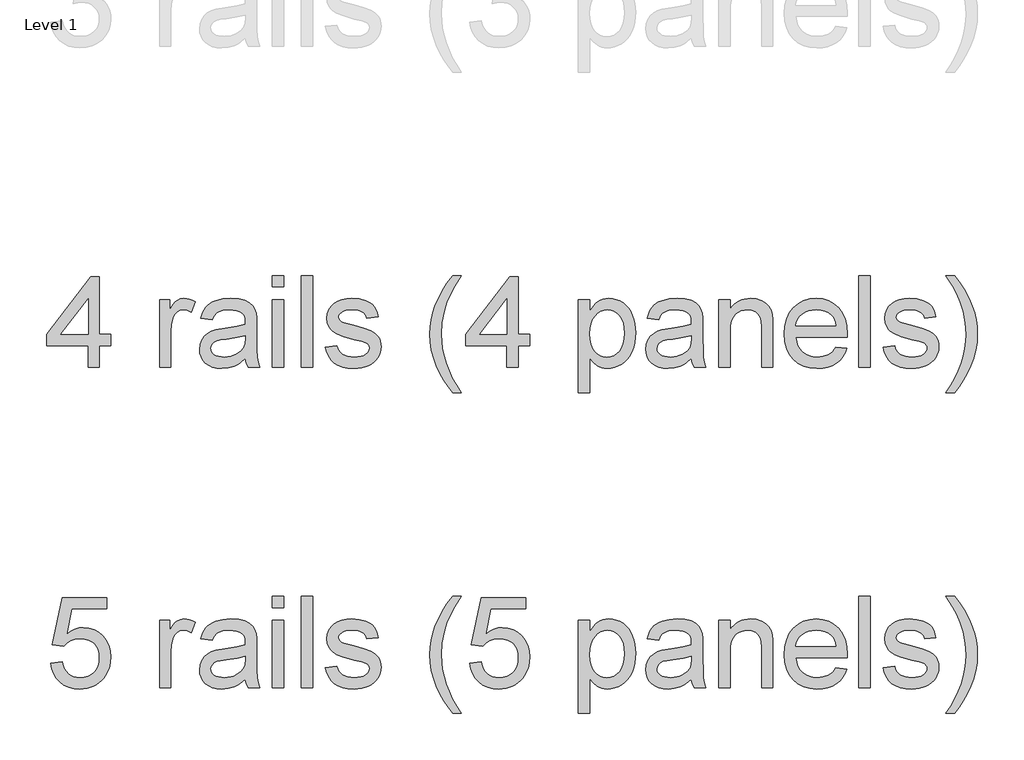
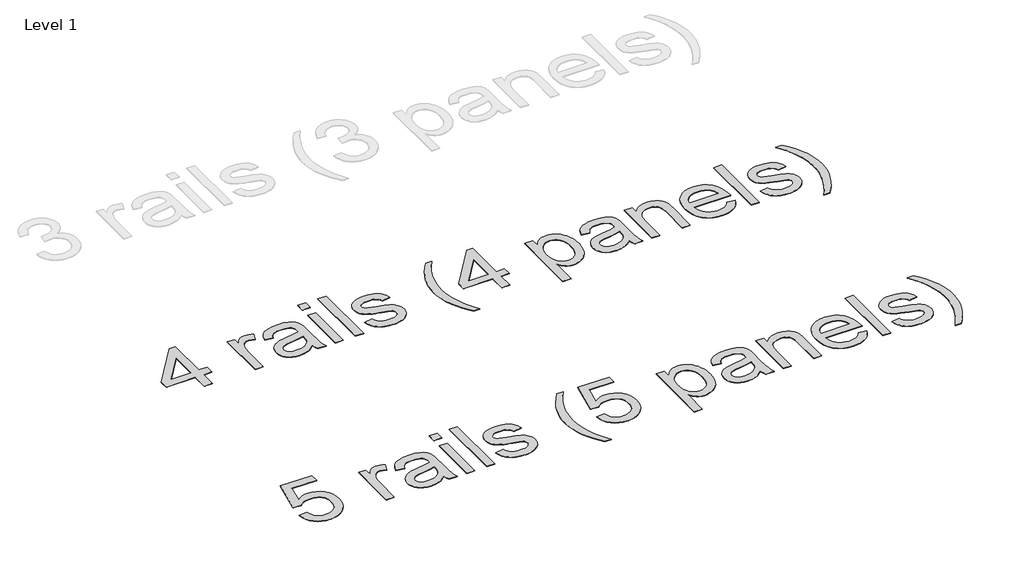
# One storey, part 4 of 47: 2 proxies.
"""IFC4 building model written with IfcOpenShell, lengths in millimetres."""

from ifc_helpers import new_model, si_unit, origin, origin_with_axes, place, context, project, spatial, polyline, outline, extrude, element, save

model = new_model("IFC4")

# Units and contexts
model_context = context("Model", 3, world=origin())
ifc_project = project(units=[si_unit("LENGTHUNIT", "METRE", prefix="MILLI")], contexts=[model_context])

# Site, building, storey
site = spatial("IfcSite", under=ifc_project)
building = spatial("IfcBuilding", under=site)
storey = spatial("IfcBuildingStorey", under=building, Name="Level 1", Elevation=0.0)

# Proxies
placement = place(None, origin())
element("IfcBuildingElementProxy", 1, Name="800mm Arial", ObjectType="800mm Arial", at=placement, inside=storey, context=model_context, shape_type="SweptSolid", body=[
    extrude(outline(polyline([(176718.9023071, -52408.4800005), (176718.9023071, -52221.1232743), (176356.6793032, -52221.1232743), (176356.6793032, -52121.199687), (176743.8832039, -51621.5817506), (176818.8258944, -51621.5817506), (176818.8258944, -52121.199687), (176918.7494817, -52121.199687), (176918.7494817, -52221.1232743), (176818.8258944, -52221.1232743), (176818.8258944, -52408.4800005), (176718.9023071, -52408.4800005)]), holes=[polyline([(176718.9023071, -52121.199687), (176718.9023071, -51812.4514154), (176479.6321547, -52121.199687), (176718.9023071, -52121.199687)])]), origin_with_axes(), (0.0, 0.0, 1.0), 5.0),
    extrude(outline(polyline([(177343.4247277, -52408.4800005), (177343.4247277, -51821.4289252), (177430.8578666, -51821.4289252), (177430.8578666, -51908.2765743), (177463.1573855, -51857.9244541), (177478.3557241, -51840.5061335), (177492.9197821, -51828.2596391), (177522.7797603, -51813.7687673), (177555.3720242, -51808.9384767), (177580.1577577, -51810.8657139), (177605.1386546, -51816.6474254), (177630.3147146, -51826.2836112), (177655.685938, -51839.7742713), (177622.3130211, -51929.354206), (177587.183635, -51913.9850995), (177552.0542488, -51908.862064), (177522.218666, -51913.7899363), (177495.5544861, -51928.5735529), (177474.0133416, -51952.0907253), (177459.5468653, -51983.2192647), (177447.3979525, -52039.0359561), (177443.348315, -52099.9268921), (177443.348315, -52408.4800005), (177343.4247277, -52408.4800005)])), origin_with_axes(), (0.0, 0.0, 1.0), 5.0),
    extrude(outline(polyline([(178092.8516324, -52333.53731), (178045.1098208, -52374.4728031), (178020.7083149, -52389.6345486), (177995.9530756, -52401.25896), (177944.259208, -52416.0425767), (177888.9060294, -52420.9704489), (177844.4149058, -52418.006407), (177805.4005511, -52409.1142811), (177771.8629652, -52394.2940713), (177743.8021483, -52373.5457776), (177721.6450198, -52348.186752), (177705.8184995, -52319.5343464), (177696.3225873, -52287.5885608), (177693.1572832, -52252.3493954), (177697.938783, -52210.9259942), (177712.2832823, -52173.3082765), (177734.4099165, -52141.1063392), (177762.5378209, -52115.9302791), (177795.5935974, -52096.9018616), (177832.5038483, -52083.142852), (177918.9611709, -52068.1152813), (178021.1291356, -52052.3070575), (178092.2661426, -52033.7665482), (178092.8516324, -52011.5179369), (178091.1317562, -51987.2932977), (178085.9721276, -51966.9231328), (178077.3727466, -51950.4074423), (178065.3336132, -51937.746226), (178044.524331, -51925.1094051), (178019.1775031, -51916.0831045), (177989.2931294, -51910.6673242), (177954.8712101, -51908.862064), (177895.3464169, -51913.6679592), (177872.3171526, -51919.6753282), (177853.7766433, -51928.0856448), (177838.5417115, -51939.557585), (177825.4291803, -51954.7498247), (177814.4390494, -51973.662364), (177805.5713189, -51996.2952029), (177705.6477316, -51983.8047545), (177722.992866, -51929.1590427), (177734.8673304, -51906.2273601), (177748.8763929, -51886.2231263), (177765.6238399, -51868.7438171), (177785.7134576, -51853.3869084), (177809.145246, -51840.1524001), (177835.9192053, -51829.0402922), (177897.3224448, -51813.9639306), (177967.751985, -51808.9384767), (178035.3028671, -51813.3784408), (178088.8507856, -51826.6983331), (178129.2251843, -51846.7269623), (178157.255507, -51871.2931372), (178175.8448072, -51901.665419), (178187.8961383, -51939.1123688), (178191.5554493, -51973.6562652), (178192.7752197, -52026.5455077), (178192.7752197, -52150.864502), (178194.0437808, -52259.1557139), (178197.8494643, -52324.4622186), (178205.3632497, -52367.3737396), (178217.7561165, -52408.4800005), (178117.8325292, -52408.4800005), (178101.8291422, -52373.7409409), (178092.8516324, -52333.53731)]), holes=[polyline([(178092.8516324, -52133.6901355), (178025.7154722, -52150.3278031), (177931.6467826, -52164.3307667), (177879.8065426, -52171.9909245), (177845.6773681, -52180.529317), (177823.3067798, -52191.6048318), (177806.7422985, -52206.8763566), (177796.4962275, -52225.1729119), (177793.0808705, -52245.3235181), (177794.9410203, -52260.8511947), (177800.5214697, -52275.0371239), (177809.8222186, -52287.8813057), (177822.8432671, -52299.3837402), (177839.4626382, -52308.8613558), (177859.5583547, -52315.6310813), (177910.1788244, -52321.0468616), (177963.8487199, -52315.0699869), (177988.3417086, -52307.5988935), (178011.2733912, -52297.1393627), (178049.7205527, -52270.7191369), (178076.4579188, -52239.2734572), (178088.3140867, -52206.8763566), (178092.2661426, -52161.9888076), (178092.8516324, -52133.6901355)])]), origin_with_axes(), (0.0, 0.0, 1.0), 5.0),
    extrude(outline(polyline([(178330.1701522, -52408.4800005), (178330.1701522, -51821.4289252), (178430.0937395, -51821.4289252), (178430.0937395, -52408.4800005), (178330.1701522, -52408.4800005)])), origin_with_axes(), (0.0, 0.0, 1.0), 5.0),
    extrude(outline(polyline([(178330.1701522, -51709.0148895), (178330.1701522, -51609.0913022), (178430.0937395, -51609.0913022), (178430.0937395, -51709.0148895), (178330.1701522, -51709.0148895)])), origin_with_axes(), (0.0, 0.0, 1.0), 5.0),
    extrude(outline(polyline([(178579.9791204, -52408.4800005), (178579.9791204, -51609.0913022), (178679.9027077, -51609.0913022), (178679.9027077, -52408.4800005), (178579.9791204, -52408.4800005)])), origin_with_axes(), (0.0, 0.0, 1.0), 5.0),
    extrude(outline(polyline([(178792.3167434, -52233.6137227), (178892.2403307, -52221.1232743), (178898.278194, -52243.9085845), (178907.9997637, -52263.8640275), (178921.4050399, -52280.9896032), (178938.4940225, -52295.2853118), (178959.3155024, -52306.5559898), (178983.9182704, -52314.6064742), (179012.3023265, -52319.4367648), (179044.4676707, -52321.0468616), (179076.5964218, -52319.5709395), (179104.2852088, -52315.1431731), (179127.5340318, -52307.7635625), (179146.3428906, -52297.4321076), (179160.8581578, -52285.112427), (179171.2262058, -52271.7681394), (179177.4470346, -52257.3992446), (179179.5206442, -52242.0057428), (179177.4348369, -52228.5150827), (179171.177415, -52216.5369378), (179160.7483785, -52206.0713082), (179146.1477273, -52197.1181938), (179108.7251729, -52184.4325821), (179043.2966912, -52168.6243584), (178952.1066596, -52142.2529233), (178892.8258205, -52119.7359626), (178854.7445901, -52095.1697877), (178839.6377343, -52079.9043617), (178827.1533847, -52062.6507101), (178810.3937401, -52024.2523394), (178804.8071918, -51982.0482852), (178809.2959467, -51943.3327742), (178822.7622114, -51907.5935029), (178843.9862156, -51876.2454048), (178871.7481888, -51850.7034136), (178899.3393942, -51834.6268404), (178935.2738288, -51821.1361803), (178976.819207, -51811.9879026), (179021.2432432, -51808.9384767), (179086.2813984, -51813.8419536), (179142.829952, -51828.552384), (179188.3029907, -51851.6304391), (179205.9164746, -51865.7675775), (179220.1146015, -51881.6367898), (179241.1922332, -51920.7914181), (179254.4633347, -51971.3143061), (179154.5397474, -51983.8047545), (179149.7765441, -51967.1121972), (179141.9273219, -51952.3590748), (179130.9920807, -51939.5453873), (179116.9708205, -51928.6711346), (179099.8025528, -51920.0046662), (179079.426289, -51913.8143317), (179029.0497735, -51908.862064), (178971.6717761, -51913.594773), (178950.1550271, -51919.5106592), (178933.4197778, -51927.7928999), (178911.9030288, -51948.2850418), (178906.5238416, -51959.7020923), (178904.7307791, -51971.8997959), (178907.7070188, -51987.2689023), (178916.6357378, -52000.9791211), (178931.9072626, -52013.2256154), (178953.9119198, -52023.0325691), (179039.9789158, -52044.305364), (179128.265894, -52070.4084496), (179186.644103, -52091.3397088), (179225.3840094, -52113.8322741), (179254.7560795, -52144.6192778), (179265.557146, -52163.1475895), (179273.2721935, -52183.7983015), (179277.901222, -52206.571414), (179279.4442315, -52231.4669269), (179277.6328725, -52256.4722192), (179272.1987956, -52280.7456492), (179263.1420007, -52304.287217), (179250.4624879, -52327.0969226), (179234.3676181, -52348.266037), (179215.0647523, -52366.8858315), (179192.5538904, -52382.9563059), (179166.8350325, -52396.4774602), (179138.6095466, -52407.1931428), (179108.5788005, -52414.8472017), (179076.7427943, -52419.4396371), (179043.1015279, -52420.9704489), (178989.3218531, -52418.0186047), (178942.3484968, -52409.1630719), (178902.1814591, -52394.4038506), (178868.8207399, -52373.7409409), (178841.5710703, -52347.2719242), (178819.737181, -52315.0943823), (178803.319072, -52277.2083151), (178792.3167434, -52233.6137227)])), origin_with_axes(), (0.0, 0.0, 1.0), 5.0),
    extrude(outline(polyline([(179903.9666521, -52633.3080719), (179863.6288465, -52581.1140985), (179826.5356301, -52524.6509289), (179792.6870028, -52463.918563), (179762.0829646, -52398.9170009), (179736.723939, -52331.1709556), (179718.6103493, -52262.2051398), (179707.7421954, -52192.0195537), (179704.1194775, -52120.6141973), (179706.8273677, -52057.8570126), (179714.9510382, -51996.4415754), (179728.4904891, -51936.3678855), (179747.4457204, -51877.635943), (179776.2566961, -51810.2802241), (179811.9471767, -51743.0708777), (179854.517162, -51676.0079037), (179903.9666521, -51609.0913022), (179978.9093425, -51609.0913022), (179920.1164115, -51704.0870172), (179885.4261427, -51767.3687031), (179853.5169503, -51842.5065569), (179829.2191248, -51920.7670227), (179810.3370798, -52020.7394008), (179804.0430648, -52121.199687), (179806.7753504, -52185.2559271), (179814.9722071, -52249.2999695), (179828.6336351, -52313.3318141), (179847.7596342, -52377.3514611), (179872.3502045, -52441.3589104), (179902.405346, -52505.3541619), (179937.9250587, -52569.3372158), (179978.9093425, -52633.3080719), (179903.9666521, -52633.3080719)])), origin_with_axes(), (0.0, 0.0, 1.0), 5.0),
    extrude(outline(polyline([(180378.6036917, -52408.4800005), (180378.6036917, -52221.1232743), (180016.3806878, -52221.1232743), (180016.3806878, -52121.199687), (180403.5845885, -51621.5817506), (180478.527279, -51621.5817506), (180478.527279, -52121.199687), (180578.4508663, -52121.199687), (180578.4508663, -52221.1232743), (180478.527279, -52221.1232743), (180478.527279, -52408.4800005), (180378.6036917, -52408.4800005)]), holes=[polyline([(180378.6036917, -52121.199687), (180378.6036917, -51812.4514154), (180139.3335393, -52121.199687), (180378.6036917, -52121.199687)])]), origin_with_axes(), (0.0, 0.0, 1.0), 5.0),
    extrude(outline(polyline([(181003.1261123, -52633.3080719), (181003.1261123, -51821.4289252), (181103.0496996, -51821.4289252), (181103.0496996, -51919.4008799), (181135.6419634, -51871.0735785), (181153.4018197, -51852.087853), (181172.1374923, -51836.5540775), (181192.3856802, -51824.4722522), (181214.6830823, -51815.8423769), (181239.0296985, -51810.6644518), (181265.4255289, -51808.9384767), (181300.2743679, -51811.353622), (181333.0008065, -51818.5990579), (181363.6048446, -51830.6747844), (181392.0864823, -51847.5808015), (181417.8236368, -51868.8779919), (181440.1942251, -51894.1272382), (181459.1982472, -51923.3285404), (181474.8357031, -51956.4818986), (181487.0456043, -51992.4529263), (181495.7669623, -52030.1072371), (181500.9997771, -52069.444831), (181502.7440487, -52110.4657079), (181500.7741196, -52154.322551), (181494.8643323, -52195.9228188), (181485.0146867, -52235.2665116), (181471.2251828, -52272.3536291), (181453.6848852, -52306.2144541), (181432.5828581, -52335.8792691), (181407.9191015, -52361.3480741), (181379.6936156, -52382.620869), (181349.2908395, -52399.3988102), (181318.0952128, -52411.3830539), (181286.1067353, -52418.5736002), (181253.325407, -52420.9704489), (181229.7411473, -52419.3664509), (181207.3888555, -52414.5544569), (181186.2685319, -52406.5344668), (181166.3801763, -52395.3064807), (181131.2751855, -52366.2515509), (181103.0496996, -52330.4146979), (181103.0496996, -52633.3080719), (181003.1261123, -52633.3080719)]), holes=[polyline([(181103.0496996, -52119.638381), (181105.7514909, -52167.7949145), (181113.8568649, -52209.2183157), (181127.3658216, -52243.9085845), (181146.2783609, -52271.865721), (181169.0453745, -52293.38247), (181194.1177541, -52308.7515765), (181221.4954997, -52317.9730403), (181251.1786112, -52321.0468616), (181281.2886424, -52317.863261), (181309.1664938, -52308.3124591), (181334.8121654, -52292.394456), (181358.2256574, -52270.1092517), (181377.7358841, -52241.1397058), (181391.6717604, -52205.1686781), (181400.0332862, -52162.1961686), (181402.8204615, -52112.2221772), (181400.1003736, -52064.4803656), (181391.9401099, -52023.1301507), (181378.3396705, -51988.1715324), (181359.2990553, -51959.6045107), (181336.477152, -51937.4046903), (181311.5328483, -51921.5476757), (181284.4661441, -51912.033467), (181255.2770396, -51908.862064), (181226.1794178, -51912.2347291), (181198.8016723, -51922.3527241), (181173.1438029, -51939.2160493), (181149.2058097, -51962.8247044), (181129.0125115, -51992.8615494), (181114.5887271, -52029.0094438), (181105.9344565, -52071.2683877), (181103.0496996, -52119.638381)])]), origin_with_axes(), (0.0, 0.0, 1.0), 5.0),
    extrude(outline(polyline([(181989.8715368, -52333.53731), (181942.1297252, -52374.4728031), (181917.7282193, -52389.6345486), (181892.97298, -52401.25896), (181841.2791124, -52416.0425767), (181785.9259338, -52420.9704489), (181741.4348102, -52418.006407), (181702.4204555, -52409.1142811), (181668.8828696, -52394.2940713), (181640.8220527, -52373.5457776), (181618.6649242, -52348.186752), (181602.8384039, -52319.5343464), (181593.3424917, -52287.5885608), (181590.1771876, -52252.3493954), (181594.9586874, -52210.9259942), (181609.3031868, -52173.3082765), (181631.429821, -52141.1063392), (181659.5577253, -52115.9302791), (181692.6135018, -52096.9018616), (181729.5237527, -52083.142852), (181815.9810753, -52068.1152813), (181918.1490401, -52052.3070575), (181989.286047, -52033.7665482), (181989.8715368, -52011.5179369), (181988.1516606, -51987.2932977), (181982.992032, -51966.9231328), (181974.392651, -51950.4074423), (181962.3535176, -51937.746226), (181941.5442354, -51925.1094051), (181916.1974075, -51916.0831045), (181886.3130339, -51910.6673242), (181851.8911145, -51908.862064), (181792.3663213, -51913.6679592), (181769.337057, -51919.6753282), (181750.7965477, -51928.0856448), (181735.561616, -51939.557585), (181722.4490847, -51954.7498247), (181711.4589538, -51973.662364), (181702.5912233, -51996.2952029), (181602.667636, -51983.8047545), (181620.0127705, -51929.1590427), (181631.8872348, -51906.2273601), (181645.8962973, -51886.2231263), (181662.6437443, -51868.7438171), (181682.733362, -51853.3869084), (181706.1651505, -51840.1524001), (181732.9391097, -51829.0402922), (181794.3423493, -51813.9639306), (181864.7718894, -51808.9384767), (181932.3227716, -51813.3784408), (181985.87069, -51826.6983331), (182026.2450887, -51846.7269623), (182054.2754114, -51871.2931372), (182072.8647116, -51901.665419), (182084.9160427, -51939.1123688), (182088.5753537, -51973.6562652), (182089.7951241, -52026.5455077), (182089.7951241, -52150.864502), (182091.0636853, -52259.1557139), (182094.8693688, -52324.4622186), (182102.3831541, -52367.3737396), (182114.7760209, -52408.4800005), (182014.8524336, -52408.4800005), (181998.8490466, -52373.7409409), (181989.8715368, -52333.53731)]), holes=[polyline([(181989.8715368, -52133.6901355), (181922.7353766, -52150.3278031), (181828.666687, -52164.3307667), (181776.826447, -52171.9909245), (181742.6972725, -52180.529317), (181720.3266843, -52191.6048318), (181703.7622029, -52206.8763566), (181693.5161319, -52225.1729119), (181690.1007749, -52245.3235181), (181691.9609247, -52260.8511947), (181697.5413741, -52275.0371239), (181706.842123, -52287.8813057), (181719.8631715, -52299.3837402), (181736.4825426, -52308.8613558), (181756.5782591, -52315.6310813), (181807.1987288, -52321.0468616), (181860.8686243, -52315.0699869), (181885.361613, -52307.5988935), (181908.2932956, -52297.1393627), (181946.7404571, -52270.7191369), (181973.4778233, -52239.2734572), (181985.3339911, -52206.8763566), (181989.286047, -52161.9888076), (181989.8715368, -52133.6901355)])]), origin_with_axes(), (0.0, 0.0, 1.0), 5.0),
    extrude(outline(polyline([(182227.1900566, -52408.4800005), (182227.1900566, -51821.4289252), (182327.1136439, -51821.4289252), (182327.1136439, -51903.3974929), (182343.5988402, -51881.258661), (182361.8283081, -51862.0716733), (182381.8020477, -51845.8365299), (182403.5200588, -51832.5532308), (182426.9823415, -51822.2217759), (182452.1888959, -51814.8421653), (182507.8348194, -51808.9384767), (182557.0891462, -51813.6955811), (182602.1962538, -51827.9668943), (182639.8139715, -51849.9715514), (182666.6001285, -51877.9286879), (182684.7747067, -51911.7651175), (182696.5576883, -51951.4076539), (182700.5097443, -51989.3181165), (182701.8270963, -52048.0134659), (182701.8270963, -52408.4800005), (182601.903509, -52408.4800005), (182601.903509, -52061.4797306), (182599.0248509, -52009.8102584), (182590.3888768, -51973.0707754), (182574.458676, -51946.7481312), (182549.6973379, -51926.3291755), (182517.9589133, -51913.2288419), (182481.0974532, -51908.862064), (182450.7556657, -51911.3138025), (182422.5728717, -51918.6690177), (182396.5490712, -51930.9277097), (182372.6842643, -51948.0898786), (182352.7471179, -51972.1071568), (182338.506299, -52004.931177), (182329.9618077, -52046.5619392), (182327.1136439, -52096.9994432), (182327.1136439, -52408.4800005), (182227.1900566, -52408.4800005)])), origin_with_axes(), (0.0, 0.0, 1.0), 5.0),
    extrude(outline(polyline([(183250.2358468, -52233.6137227), (183348.2078016, -52246.1041712), (183333.1863297, -52285.3441834), (183312.9076476, -52319.9246729), (183287.3717552, -52349.8456397), (183256.5786527, -52375.1070837), (183220.8454802, -52395.172306), (183180.4893781, -52409.5046076), (183135.5103463, -52418.1039886), (183085.9083849, -52420.9704489), (183023.9074579, -52416.0242801), (182968.6640586, -52401.1857738), (182920.1781871, -52376.4549299), (182878.4498433, -52341.8317484), (182844.8939609, -52298.279848), (182820.9254735, -52246.7628471), (182806.544381, -52187.2807459), (182801.7506835, -52119.8335442), (182806.5931719, -52050.0992732), (182821.1206368, -51988.6350451), (182845.3330783, -51935.44086), (182861.0711652, -51911.9450336), (182879.2304964, -51890.5167179), (182920.8490608, -51854.8262374), (182968.2249413, -51829.333037), (183021.3581378, -51814.0371168), (183080.2486505, -51808.9384767), (183137.2424202, -51814.0249191), (183188.7838165, -51829.2842462), (183234.8728392, -51854.7164581), (183275.5094885, -51890.3215547), (183308.6811433, -51935.1481151), (183332.3751824, -51988.2447186), (183346.5916058, -52049.611365), (183351.3304137, -52119.2480545), (183350.7449239, -52146.1805839), (182901.6742708, -52146.1805839), (182907.4620812, -52186.0548767), (182918.9706144, -52220.9769019), (182936.1998707, -52250.9466595), (182959.1498499, -52275.9641494), (182986.5519908, -52295.687836), (183017.1377324, -52309.7761836), (183050.9070746, -52318.2291921), (183087.8600175, -52321.0468616), (183141.0420049, -52315.8262445), (183185.8319722, -52300.1643932), (183205.0799484, -52288.1740506), (183222.2299195, -52273.0854914), (183237.2818857, -52254.8987154), (183250.2358468, -52233.6137227)]), holes=[polyline([(182901.6742708, -52046.2569966), (183251.4068264, -52046.2569966), (183246.2715932, -52017.9827198), (183237.8917709, -51993.4653357), (183226.2673594, -51972.7048443), (183211.3983588, -51955.7012456), (183184.1486891, -51935.2091037), (183153.1421268, -51920.5718594), (183118.3786717, -51911.7895129), (183079.858324, -51908.862064), (183044.722839, -51911.1979243), (183012.5026051, -51918.2055049), (182983.1976224, -51929.8848061), (182956.8078908, -51946.2358276), (182934.66296, -51966.5023121), (182918.0923798, -51989.9280017), (182907.0961501, -52016.5128965), (182901.6742708, -52046.2569966)])]), origin_with_axes(), (0.0, 0.0, 1.0), 5.0),
    extrude(outline(polyline([(183451.254001, -52408.4800005), (183451.254001, -51609.0913022), (183551.1775882, -51609.0913022), (183551.1775882, -52408.4800005), (183451.254001, -52408.4800005)])), origin_with_axes(), (0.0, 0.0, 1.0), 5.0),
    extrude(outline(polyline([(183663.591624, -52233.6137227), (183763.5152112, -52221.1232743), (183769.5530745, -52243.9085845), (183779.2746442, -52263.8640275), (183792.6799204, -52280.9896032), (183809.768903, -52295.2853118), (183830.5903829, -52306.5559898), (183855.193151, -52314.6064742), (183883.5772071, -52319.4367648), (183915.7425513, -52321.0468616), (183947.8713023, -52319.5709395), (183975.5600894, -52315.1431731), (183998.8089123, -52307.7635625), (184017.6177711, -52297.4321076), (184032.1330383, -52285.112427), (184042.5010863, -52271.7681394), (184048.7219151, -52257.3992446), (184050.7955247, -52242.0057428), (184048.7097174, -52228.5150827), (184042.4522955, -52216.5369378), (184032.023259, -52206.0713082), (184017.4226079, -52197.1181938), (183980.0000534, -52184.4325821), (183914.5715717, -52168.6243584), (183823.3815402, -52142.2529233), (183764.100701, -52119.7359626), (183726.0194706, -52095.1697877), (183710.9126148, -52079.9043617), (183698.4282652, -52062.6507101), (183681.6686206, -52024.2523394), (183676.0820724, -51982.0482852), (183680.5708273, -51943.3327742), (183694.037092, -51907.5935029), (183715.2610961, -51876.2454048), (183743.0230693, -51850.7034136), (183770.6142747, -51834.6268404), (183806.5487093, -51821.1361803), (183848.0940875, -51811.9879026), (183892.5181237, -51808.9384767), (183957.5562789, -51813.8419536), (184014.1048325, -51828.552384), (184059.5778712, -51851.6304391), (184077.1913551, -51865.7675775), (184091.389482, -51881.6367898), (184112.4671137, -51920.7914181), (184125.7382152, -51971.3143061), (184025.8146279, -51983.8047545), (184021.0514247, -51967.1121972), (184013.2022024, -51952.3590748), (184002.2669612, -51939.5453873), (183988.245701, -51928.6711346), (183971.0774333, -51920.0046662), (183950.7011696, -51913.8143317), (183900.324654, -51908.862064), (183842.9466566, -51913.594773), (183821.4299076, -51919.5106592), (183804.6946583, -51927.7928999), (183783.1779093, -51948.2850418), (183777.7987221, -51959.7020923), (183776.0056597, -51971.8997959), (183778.9818993, -51987.2689023), (183787.9106183, -52000.9791211), (183803.1821431, -52013.2256154), (183825.1868003, -52023.0325691), (183911.2537964, -52044.305364), (183999.5407745, -52070.4084496), (184057.9189836, -52091.3397088), (184096.65889, -52113.8322741), (184126.0309601, -52144.6192778), (184136.8320265, -52163.1475895), (184144.547074, -52183.7983015), (184149.1761025, -52206.571414), (184150.719112, -52231.4669269), (184148.907753, -52256.4722192), (184143.4736761, -52280.7456492), (184134.4168812, -52304.287217), (184121.7373684, -52327.0969226), (184105.6424986, -52348.266037), (184086.3396328, -52366.8858315), (184063.8287709, -52382.9563059), (184038.109913, -52396.4774602), (184009.8844271, -52407.1931428), (183979.853681, -52414.8472017), (183948.0176748, -52419.4396371), (183914.3764085, -52420.9704489), (183860.5967336, -52418.0186047), (183813.6233773, -52409.1630719), (183773.4563396, -52394.4038506), (183740.0956205, -52373.7409409), (183712.8459508, -52347.2719242), (183691.0120615, -52315.0943823), (183674.5939525, -52277.2083151), (183663.591624, -52233.6137227)])), origin_with_axes(), (0.0, 0.0, 1.0), 5.0),
    extrude(outline(polyline([(184288.1140445, -52633.3080719), (184213.1713541, -52633.3080719), (184254.1556379, -52569.3372158), (184289.6753506, -52505.3541619), (184319.7304921, -52441.3589104), (184344.3210624, -52377.3514611), (184363.4470615, -52313.3318141), (184377.1084895, -52249.2999695), (184385.3053462, -52185.2559271), (184388.0376318, -52121.199687), (184381.7436168, -52021.471263), (184362.8615717, -51922.523492), (184339.0028636, -51844.1166537), (184307.2400437, -51768.9300092), (184272.4034024, -51704.9652519), (184213.1713541, -51609.0913022), (184288.1140445, -51609.0913022), (184337.5635346, -51676.0079037), (184380.1335199, -51743.0708777), (184415.8240005, -51810.2802241), (184444.6349762, -51877.635943), (184463.5902075, -51936.3678855), (184477.1296584, -51996.4415754), (184485.2533289, -52057.8570126), (184487.9612191, -52120.6141973), (184484.3202046, -52192.0195537), (184473.3971611, -52262.2051398), (184455.1920886, -52331.1709556), (184429.7049871, -52398.9170009), (184399.0094661, -52463.918563), (184365.1791354, -52524.6509289), (184328.2139949, -52581.1140985), (184288.1140445, -52633.3080719)])), origin_with_axes(), (0.0, 0.0, 1.0), 5.0),
])
element("IfcBuildingElementProxy", 2, Name="800mm Arial", ObjectType="800mm Arial", at=placement, inside=storey, context=model_context, shape_type="SweptSolid", body=[
    extrude(outline(polyline([(176394.1506484, -54996.1423775), (176494.0742357, -54983.6519291), (176501.5392303, -55015.7745813), (176512.4195818, -55043.640235), (176526.7152903, -55067.2488902), (176544.4263559, -55086.6005469), (176565.5161853, -55101.6708096), (176589.9481854, -55112.4352829), (176617.7223563, -55118.893967), (176648.838698, -55121.0468616), (176686.895533, -55118.0523254), (176720.4636132, -55109.0687168), (176749.5429384, -55094.0960357), (176774.1335087, -55073.1342822), (176793.6864274, -55047.220261), (176807.652798, -55017.3907771), (176816.0326203, -54983.6458302), (176818.8258944, -54945.9854206), (176816.209487, -54910.3925217), (176808.3602648, -54878.7516788), (176795.2782277, -54851.0628918), (176776.9633759, -54827.3261607), (176753.3547207, -54808.2855455), (176724.3912737, -54794.6851061), (176690.0730348, -54786.5248424), (176650.4000041, -54783.8047545), (176601.9263303, -54788.147137), (176562.6741203, -54801.1742843), (176531.3260223, -54821.1297273), (176506.5646841, -54846.2569966), (176406.6410968, -54833.7665482), (176494.0742357, -54421.5817506), (176881.2781365, -54421.5817506), (176881.2781365, -54521.5053379), (176574.8718239, -54521.5053379), (176532.1310707, -54741.6494911), (176567.3946316, -54716.3758494), (176603.5120317, -54698.3232482), (176640.4832711, -54687.4916875), (176678.3083498, -54683.8811672), (176726.971088, -54688.3577244), (176771.6695726, -54701.787396), (176812.4038035, -54724.170182), (176849.1737808, -54755.5060823), (176879.6131499, -54793.8800576), (176901.3555565, -54837.3770684), (176914.4010004, -54885.9971147), (176918.7494817, -54939.7401964), (176914.8340189, -54991.5072502), (176903.0876304, -55039.6637837), (176883.5103162, -55084.209797), (176856.1020764, -55125.14529), (176836.2076219, -55147.6043116), (176814.5810936, -55167.068797), (176791.2224913, -55183.5387462), (176766.1318152, -55197.0141592), (176739.3090651, -55207.4950359), (176710.7542411, -55214.9813765), (176648.4483715, -55220.9704489), (176596.8825799, -55217.1220735), (176550.305649, -55205.5769471), (176508.7175788, -55186.3350698), (176472.1183693, -55159.3964415), (176441.6668025, -55126.1028097), (176418.52166, -55087.7959218), (176402.682942, -55044.4757777), (176394.1506484, -54996.1423775)])), origin_with_axes(), (0.0, 0.0, 1.0), 5.0),
    extrude(outline(polyline([(177343.4247277, -55208.4800005), (177343.4247277, -54621.4289252), (177430.8578666, -54621.4289252), (177430.8578666, -54708.2765743), (177463.1573855, -54657.9244541), (177478.3557241, -54640.5061335), (177492.9197821, -54628.2596391), (177522.7797603, -54613.7687673), (177555.3720242, -54608.9384767), (177580.1577577, -54610.8657139), (177605.1386546, -54616.6474254), (177630.3147146, -54626.2836112), (177655.685938, -54639.7742713), (177622.3130211, -54729.354206), (177587.183635, -54713.9850995), (177552.0542488, -54708.862064), (177522.218666, -54713.7899363), (177495.5544861, -54728.5735529), (177474.0133416, -54752.0907253), (177459.5468653, -54783.2192647), (177447.3979525, -54839.0359561), (177443.348315, -54899.9268921), (177443.348315, -55208.4800005), (177343.4247277, -55208.4800005)])), origin_with_axes(), (0.0, 0.0, 1.0), 5.0),
    extrude(outline(polyline([(178092.8516324, -55133.53731), (178045.1098208, -55174.4728031), (178020.7083149, -55189.6345486), (177995.9530756, -55201.25896), (177944.259208, -55216.0425767), (177888.9060294, -55220.9704489), (177844.4149058, -55218.006407), (177805.4005511, -55209.1142811), (177771.8629652, -55194.2940713), (177743.8021483, -55173.5457776), (177721.6450198, -55148.186752), (177705.8184995, -55119.5343464), (177696.3225873, -55087.5885608), (177693.1572832, -55052.3493954), (177697.938783, -55010.9259942), (177712.2832823, -54973.3082765), (177734.4099165, -54941.1063392), (177762.5378209, -54915.9302791), (177795.5935974, -54896.9018616), (177832.5038483, -54883.142852), (177918.9611709, -54868.1152813), (178021.1291356, -54852.3070575), (178092.2661426, -54833.7665482), (178092.8516324, -54811.5179369), (178091.1317562, -54787.2932977), (178085.9721276, -54766.9231328), (178077.3727466, -54750.4074423), (178065.3336132, -54737.746226), (178044.524331, -54725.1094051), (178019.1775031, -54716.0831045), (177989.2931294, -54710.6673242), (177954.8712101, -54708.862064), (177895.3464169, -54713.6679592), (177872.3171526, -54719.6753282), (177853.7766433, -54728.0856448), (177838.5417115, -54739.557585), (177825.4291803, -54754.7498247), (177814.4390494, -54773.662364), (177805.5713189, -54796.2952029), (177705.6477316, -54783.8047545), (177722.992866, -54729.1590427), (177734.8673304, -54706.2273601), (177748.8763929, -54686.2231263), (177765.6238399, -54668.7438171), (177785.7134576, -54653.3869084), (177809.145246, -54640.1524001), (177835.9192053, -54629.0402922), (177897.3224448, -54613.9639306), (177967.751985, -54608.9384767), (178035.3028671, -54613.3784408), (178088.8507856, -54626.6983331), (178129.2251843, -54646.7269623), (178157.255507, -54671.2931372), (178175.8448072, -54701.665419), (178187.8961383, -54739.1123688), (178191.5554493, -54773.6562652), (178192.7752197, -54826.5455077), (178192.7752197, -54950.864502), (178194.0437808, -55059.1557139), (178197.8494643, -55124.4622186), (178205.3632497, -55167.3737396), (178217.7561165, -55208.4800005), (178117.8325292, -55208.4800005), (178101.8291422, -55173.7409409), (178092.8516324, -55133.53731)]), holes=[polyline([(178092.8516324, -54933.6901355), (178025.7154722, -54950.3278031), (177931.6467826, -54964.3307667), (177879.8065426, -54971.9909245), (177845.6773681, -54980.529317), (177823.3067798, -54991.6048318), (177806.7422985, -55006.8763566), (177796.4962275, -55025.1729119), (177793.0808705, -55045.3235181), (177794.9410203, -55060.8511947), (177800.5214697, -55075.0371239), (177809.8222186, -55087.8813057), (177822.8432671, -55099.3837402), (177839.4626382, -55108.8613558), (177859.5583547, -55115.6310813), (177910.1788244, -55121.0468616), (177963.8487199, -55115.0699869), (177988.3417086, -55107.5988935), (178011.2733912, -55097.1393627), (178049.7205527, -55070.7191369), (178076.4579188, -55039.2734572), (178088.3140867, -55006.8763566), (178092.2661426, -54961.9888076), (178092.8516324, -54933.6901355)])]), origin_with_axes(), (0.0, 0.0, 1.0), 5.0),
    extrude(outline(polyline([(178330.1701522, -55208.4800005), (178330.1701522, -54621.4289252), (178430.0937395, -54621.4289252), (178430.0937395, -55208.4800005), (178330.1701522, -55208.4800005)])), origin_with_axes(), (0.0, 0.0, 1.0), 5.0),
    extrude(outline(polyline([(178330.1701522, -54509.0148895), (178330.1701522, -54409.0913022), (178430.0937395, -54409.0913022), (178430.0937395, -54509.0148895), (178330.1701522, -54509.0148895)])), origin_with_axes(), (0.0, 0.0, 1.0), 5.0),
    extrude(outline(polyline([(178579.9791204, -55208.4800005), (178579.9791204, -54409.0913022), (178679.9027077, -54409.0913022), (178679.9027077, -55208.4800005), (178579.9791204, -55208.4800005)])), origin_with_axes(), (0.0, 0.0, 1.0), 5.0),
    extrude(outline(polyline([(178792.3167434, -55033.6137227), (178892.2403307, -55021.1232743), (178898.278194, -55043.9085845), (178907.9997637, -55063.8640275), (178921.4050399, -55080.9896032), (178938.4940225, -55095.2853118), (178959.3155024, -55106.5559898), (178983.9182704, -55114.6064742), (179012.3023265, -55119.4367648), (179044.4676707, -55121.0468616), (179076.5964218, -55119.5709395), (179104.2852088, -55115.1431731), (179127.5340318, -55107.7635625), (179146.3428906, -55097.4321076), (179160.8581578, -55085.112427), (179171.2262058, -55071.7681394), (179177.4470346, -55057.3992446), (179179.5206442, -55042.0057428), (179177.4348369, -55028.5150827), (179171.177415, -55016.5369378), (179160.7483785, -55006.0713082), (179146.1477273, -54997.1181938), (179108.7251729, -54984.4325821), (179043.2966912, -54968.6243584), (178952.1066596, -54942.2529233), (178892.8258205, -54919.7359626), (178854.7445901, -54895.1697877), (178839.6377343, -54879.9043617), (178827.1533847, -54862.6507101), (178810.3937401, -54824.2523394), (178804.8071918, -54782.0482852), (178809.2959467, -54743.3327742), (178822.7622114, -54707.5935029), (178843.9862156, -54676.2454048), (178871.7481888, -54650.7034136), (178899.3393942, -54634.6268404), (178935.2738288, -54621.1361803), (178976.819207, -54611.9879026), (179021.2432432, -54608.9384767), (179086.2813984, -54613.8419536), (179142.829952, -54628.552384), (179188.3029907, -54651.6304391), (179205.9164746, -54665.7675775), (179220.1146015, -54681.6367898), (179241.1922332, -54720.7914181), (179254.4633347, -54771.3143061), (179154.5397474, -54783.8047545), (179149.7765441, -54767.1121972), (179141.9273219, -54752.3590748), (179130.9920807, -54739.5453873), (179116.9708205, -54728.6711346), (179099.8025528, -54720.0046662), (179079.426289, -54713.8143317), (179029.0497735, -54708.862064), (178971.6717761, -54713.594773), (178950.1550271, -54719.5106592), (178933.4197778, -54727.7928999), (178911.9030288, -54748.2850418), (178906.5238416, -54759.7020923), (178904.7307791, -54771.8997959), (178907.7070188, -54787.2689023), (178916.6357378, -54800.9791211), (178931.9072626, -54813.2256154), (178953.9119198, -54823.0325691), (179039.9789158, -54844.305364), (179128.265894, -54870.4084496), (179186.644103, -54891.3397088), (179225.3840094, -54913.8322741), (179254.7560795, -54944.6192778), (179265.557146, -54963.1475895), (179273.2721935, -54983.7983015), (179277.901222, -55006.571414), (179279.4442315, -55031.4669269), (179277.6328725, -55056.4722192), (179272.1987956, -55080.7456492), (179263.1420007, -55104.287217), (179250.4624879, -55127.0969226), (179234.3676181, -55148.266037), (179215.0647523, -55166.8858315), (179192.5538904, -55182.9563059), (179166.8350325, -55196.4774602), (179138.6095466, -55207.1931428), (179108.5788005, -55214.8472017), (179076.7427943, -55219.4396371), (179043.1015279, -55220.9704489), (178989.3218531, -55218.0186047), (178942.3484968, -55209.1630719), (178902.1814591, -55194.4038506), (178868.8207399, -55173.7409409), (178841.5710703, -55147.2719242), (178819.737181, -55115.0943823), (178803.319072, -55077.2083151), (178792.3167434, -55033.6137227)])), origin_with_axes(), (0.0, 0.0, 1.0), 5.0),
    extrude(outline(polyline([(179903.9666521, -55433.3080719), (179863.6288465, -55381.1140985), (179826.5356301, -55324.6509289), (179792.6870028, -55263.918563), (179762.0829646, -55198.9170009), (179736.723939, -55131.1709556), (179718.6103493, -55062.2051398), (179707.7421954, -54992.0195537), (179704.1194775, -54920.6141973), (179706.8273677, -54857.8570126), (179714.9510382, -54796.4415754), (179728.4904891, -54736.3678855), (179747.4457204, -54677.635943), (179776.2566961, -54610.2802241), (179811.9471767, -54543.0708777), (179854.517162, -54476.0079037), (179903.9666521, -54409.0913022), (179978.9093425, -54409.0913022), (179920.1164115, -54504.0870172), (179885.4261427, -54567.3687031), (179853.5169503, -54642.5065569), (179829.2191248, -54720.7670227), (179810.3370798, -54820.7394008), (179804.0430648, -54921.199687), (179806.7753504, -54985.2559271), (179814.9722071, -55049.2999695), (179828.6336351, -55113.3318141), (179847.7596342, -55177.3514611), (179872.3502045, -55241.3589104), (179902.405346, -55305.3541619), (179937.9250587, -55369.3372158), (179978.9093425, -55433.3080719), (179903.9666521, -55433.3080719)])), origin_with_axes(), (0.0, 0.0, 1.0), 5.0),
    extrude(outline(polyline([(180053.852033, -54996.1423775), (180153.7756203, -54983.6519291), (180161.2406149, -55015.7745813), (180172.1209664, -55043.640235), (180186.4166749, -55067.2488902), (180204.1277405, -55086.6005469), (180225.2175698, -55101.6708096), (180249.64957, -55112.4352829), (180277.4237409, -55118.893967), (180308.5400826, -55121.0468616), (180346.5969176, -55118.0523254), (180380.1649978, -55109.0687168), (180409.244323, -55094.0960357), (180433.8348933, -55073.1342822), (180453.387812, -55047.220261), (180467.3541826, -55017.3907771), (180475.7340049, -54983.6458302), (180478.527279, -54945.9854206), (180475.9108716, -54910.3925217), (180468.0616494, -54878.7516788), (180454.9796123, -54851.0628918), (180436.6647605, -54827.3261607), (180413.0561053, -54808.2855455), (180384.0926583, -54794.6851061), (180349.7744194, -54786.5248424), (180310.1013887, -54783.8047545), (180261.6277149, -54788.147137), (180222.3755049, -54801.1742843), (180191.0274069, -54821.1297273), (180166.2660687, -54846.2569966), (180066.3424814, -54833.7665482), (180153.7756203, -54421.5817506), (180540.9795211, -54421.5817506), (180540.9795211, -54521.5053379), (180234.5732085, -54521.5053379), (180191.8324553, -54741.6494911), (180227.0960162, -54716.3758494), (180263.2134163, -54698.3232482), (180300.1846557, -54687.4916875), (180338.0097344, -54683.8811672), (180386.6724726, -54688.3577244), (180431.3709572, -54701.787396), (180472.1051881, -54724.170182), (180508.8751654, -54755.5060823), (180539.3145345, -54793.8800576), (180561.0569411, -54837.3770684), (180574.102385, -54885.9971147), (180578.4508663, -54939.7401964), (180574.5354035, -54991.5072502), (180562.789015, -55039.6637837), (180543.2117008, -55084.209797), (180515.803461, -55125.14529), (180495.9090065, -55147.6043116), (180474.2824782, -55167.068797), (180450.9238759, -55183.5387462), (180425.8331998, -55197.0141592), (180399.0104497, -55207.4950359), (180370.4556257, -55214.9813765), (180308.1497561, -55220.9704489), (180256.5839645, -55217.1220735), (180210.0070336, -55205.5769471), (180168.4189634, -55186.3350698), (180131.8197539, -55159.3964415), (180101.3681871, -55126.1028097), (180078.2230446, -55087.7959218), (180062.3843266, -55044.4757777), (180053.852033, -54996.1423775)])), origin_with_axes(), (0.0, 0.0, 1.0), 5.0),
    extrude(outline(polyline([(181003.1261123, -55433.3080719), (181003.1261123, -54621.4289252), (181103.0496996, -54621.4289252), (181103.0496996, -54719.4008799), (181135.6419634, -54671.0735785), (181153.4018197, -54652.087853), (181172.1374923, -54636.5540775), (181192.3856802, -54624.4722522), (181214.6830823, -54615.8423769), (181239.0296985, -54610.6644518), (181265.4255289, -54608.9384767), (181300.2743679, -54611.353622), (181333.0008065, -54618.5990579), (181363.6048446, -54630.6747844), (181392.0864823, -54647.5808015), (181417.8236368, -54668.8779919), (181440.1942251, -54694.1272382), (181459.1982472, -54723.3285404), (181474.8357031, -54756.4818986), (181487.0456043, -54792.4529263), (181495.7669623, -54830.1072371), (181500.9997771, -54869.444831), (181502.7440487, -54910.4657079), (181500.7741196, -54954.322551), (181494.8643323, -54995.9228188), (181485.0146867, -55035.2665116), (181471.2251828, -55072.3536291), (181453.6848852, -55106.2144541), (181432.5828581, -55135.8792691), (181407.9191015, -55161.3480741), (181379.6936156, -55182.620869), (181349.2908395, -55199.3988102), (181318.0952128, -55211.3830539), (181286.1067353, -55218.5736002), (181253.325407, -55220.9704489), (181229.7411473, -55219.3664509), (181207.3888555, -55214.5544569), (181186.2685319, -55206.5344668), (181166.3801763, -55195.3064807), (181131.2751855, -55166.2515509), (181103.0496996, -55130.4146979), (181103.0496996, -55433.3080719), (181003.1261123, -55433.3080719)]), holes=[polyline([(181103.0496996, -54919.638381), (181105.7514909, -54967.7949145), (181113.8568649, -55009.2183157), (181127.3658216, -55043.9085845), (181146.2783609, -55071.865721), (181169.0453745, -55093.38247), (181194.1177541, -55108.7515765), (181221.4954997, -55117.9730403), (181251.1786112, -55121.0468616), (181281.2886424, -55117.863261), (181309.1664938, -55108.3124591), (181334.8121654, -55092.394456), (181358.2256574, -55070.1092517), (181377.7358841, -55041.1397058), (181391.6717604, -55005.1686781), (181400.0332862, -54962.1961686), (181402.8204615, -54912.2221772), (181400.1003736, -54864.4803656), (181391.9401099, -54823.1301507), (181378.3396705, -54788.1715324), (181359.2990553, -54759.6045107), (181336.477152, -54737.4046903), (181311.5328483, -54721.5476757), (181284.4661441, -54712.033467), (181255.2770396, -54708.862064), (181226.1794178, -54712.2347291), (181198.8016723, -54722.3527241), (181173.1438029, -54739.2160493), (181149.2058097, -54762.8247044), (181129.0125115, -54792.8615494), (181114.5887271, -54829.0094438), (181105.9344565, -54871.2683877), (181103.0496996, -54919.638381)])]), origin_with_axes(), (0.0, 0.0, 1.0), 5.0),
    extrude(outline(polyline([(181989.8715368, -55133.53731), (181942.1297252, -55174.4728031), (181917.7282193, -55189.6345486), (181892.97298, -55201.25896), (181841.2791124, -55216.0425767), (181785.9259338, -55220.9704489), (181741.4348102, -55218.006407), (181702.4204555, -55209.1142811), (181668.8828696, -55194.2940713), (181640.8220527, -55173.5457776), (181618.6649242, -55148.186752), (181602.8384039, -55119.5343464), (181593.3424917, -55087.5885608), (181590.1771876, -55052.3493954), (181594.9586874, -55010.9259942), (181609.3031868, -54973.3082765), (181631.429821, -54941.1063392), (181659.5577253, -54915.9302791), (181692.6135018, -54896.9018616), (181729.5237527, -54883.142852), (181815.9810753, -54868.1152813), (181918.1490401, -54852.3070575), (181989.286047, -54833.7665482), (181989.8715368, -54811.5179369), (181988.1516606, -54787.2932977), (181982.992032, -54766.9231328), (181974.392651, -54750.4074423), (181962.3535176, -54737.746226), (181941.5442354, -54725.1094051), (181916.1974075, -54716.0831045), (181886.3130339, -54710.6673242), (181851.8911145, -54708.862064), (181792.3663213, -54713.6679592), (181769.337057, -54719.6753282), (181750.7965477, -54728.0856448), (181735.561616, -54739.557585), (181722.4490847, -54754.7498247), (181711.4589538, -54773.662364), (181702.5912233, -54796.2952029), (181602.667636, -54783.8047545), (181620.0127705, -54729.1590427), (181631.8872348, -54706.2273601), (181645.8962973, -54686.2231263), (181662.6437443, -54668.7438171), (181682.733362, -54653.3869084), (181706.1651505, -54640.1524001), (181732.9391097, -54629.0402922), (181794.3423493, -54613.9639306), (181864.7718894, -54608.9384767), (181932.3227716, -54613.3784408), (181985.87069, -54626.6983331), (182026.2450887, -54646.7269623), (182054.2754114, -54671.2931372), (182072.8647116, -54701.665419), (182084.9160427, -54739.1123688), (182088.5753537, -54773.6562652), (182089.7951241, -54826.5455077), (182089.7951241, -54950.864502), (182091.0636853, -55059.1557139), (182094.8693688, -55124.4622186), (182102.3831541, -55167.3737396), (182114.7760209, -55208.4800005), (182014.8524336, -55208.4800005), (181998.8490466, -55173.7409409), (181989.8715368, -55133.53731)]), holes=[polyline([(181989.8715368, -54933.6901355), (181922.7353766, -54950.3278031), (181828.666687, -54964.3307667), (181776.826447, -54971.9909245), (181742.6972725, -54980.529317), (181720.3266843, -54991.6048318), (181703.7622029, -55006.8763566), (181693.5161319, -55025.1729119), (181690.1007749, -55045.3235181), (181691.9609247, -55060.8511947), (181697.5413741, -55075.0371239), (181706.842123, -55087.8813057), (181719.8631715, -55099.3837402), (181736.4825426, -55108.8613558), (181756.5782591, -55115.6310813), (181807.1987288, -55121.0468616), (181860.8686243, -55115.0699869), (181885.361613, -55107.5988935), (181908.2932956, -55097.1393627), (181946.7404571, -55070.7191369), (181973.4778233, -55039.2734572), (181985.3339911, -55006.8763566), (181989.286047, -54961.9888076), (181989.8715368, -54933.6901355)])]), origin_with_axes(), (0.0, 0.0, 1.0), 5.0),
    extrude(outline(polyline([(182227.1900566, -55208.4800005), (182227.1900566, -54621.4289252), (182327.1136439, -54621.4289252), (182327.1136439, -54703.3974929), (182343.5988402, -54681.258661), (182361.8283081, -54662.0716733), (182381.8020477, -54645.8365299), (182403.5200588, -54632.5532308), (182426.9823415, -54622.2217759), (182452.1888959, -54614.8421653), (182507.8348194, -54608.9384767), (182557.0891462, -54613.6955811), (182602.1962538, -54627.9668943), (182639.8139715, -54649.9715514), (182666.6001285, -54677.9286879), (182684.7747067, -54711.7651175), (182696.5576883, -54751.4076539), (182700.5097443, -54789.3181165), (182701.8270963, -54848.0134659), (182701.8270963, -55208.4800005), (182601.903509, -55208.4800005), (182601.903509, -54861.4797306), (182599.0248509, -54809.8102584), (182590.3888768, -54773.0707754), (182574.458676, -54746.7481312), (182549.6973379, -54726.3291755), (182517.9589133, -54713.2288419), (182481.0974532, -54708.862064), (182450.7556657, -54711.3138025), (182422.5728717, -54718.6690177), (182396.5490712, -54730.9277097), (182372.6842643, -54748.0898786), (182352.7471179, -54772.1071568), (182338.506299, -54804.931177), (182329.9618077, -54846.5619392), (182327.1136439, -54896.9994432), (182327.1136439, -55208.4800005), (182227.1900566, -55208.4800005)])), origin_with_axes(), (0.0, 0.0, 1.0), 5.0),
    extrude(outline(polyline([(183250.2358468, -55033.6137227), (183348.2078016, -55046.1041712), (183333.1863297, -55085.3441834), (183312.9076476, -55119.9246729), (183287.3717552, -55149.8456397), (183256.5786527, -55175.1070837), (183220.8454802, -55195.172306), (183180.4893781, -55209.5046076), (183135.5103463, -55218.1039886), (183085.9083849, -55220.9704489), (183023.9074579, -55216.0242801), (182968.6640586, -55201.1857738), (182920.1781871, -55176.4549299), (182878.4498433, -55141.8317484), (182844.8939609, -55098.279848), (182820.9254735, -55046.7628471), (182806.544381, -54987.2807459), (182801.7506835, -54919.8335442), (182806.5931719, -54850.0992732), (182821.1206368, -54788.6350451), (182845.3330783, -54735.44086), (182861.0711652, -54711.9450336), (182879.2304964, -54690.5167179), (182920.8490608, -54654.8262374), (182968.2249413, -54629.333037), (183021.3581378, -54614.0371168), (183080.2486505, -54608.9384767), (183137.2424202, -54614.0249191), (183188.7838165, -54629.2842462), (183234.8728392, -54654.7164581), (183275.5094885, -54690.3215547), (183308.6811433, -54735.1481151), (183332.3751824, -54788.2447186), (183346.5916058, -54849.611365), (183351.3304137, -54919.2480545), (183350.7449239, -54946.1805839), (182901.6742708, -54946.1805839), (182907.4620812, -54986.0548767), (182918.9706144, -55020.9769019), (182936.1998707, -55050.9466595), (182959.1498499, -55075.9641494), (182986.5519908, -55095.687836), (183017.1377324, -55109.7761836), (183050.9070746, -55118.2291921), (183087.8600175, -55121.0468616), (183141.0420049, -55115.8262445), (183185.8319722, -55100.1643932), (183205.0799484, -55088.1740506), (183222.2299195, -55073.0854914), (183237.2818857, -55054.8987154), (183250.2358468, -55033.6137227)]), holes=[polyline([(182901.6742708, -54846.2569966), (183251.4068264, -54846.2569966), (183246.2715932, -54817.9827198), (183237.8917709, -54793.4653357), (183226.2673594, -54772.7048443), (183211.3983588, -54755.7012456), (183184.1486891, -54735.2091037), (183153.1421268, -54720.5718594), (183118.3786717, -54711.7895129), (183079.858324, -54708.862064), (183044.722839, -54711.1979243), (183012.5026051, -54718.2055049), (182983.1976224, -54729.8848061), (182956.8078908, -54746.2358276), (182934.66296, -54766.5023121), (182918.0923798, -54789.9280017), (182907.0961501, -54816.5128965), (182901.6742708, -54846.2569966)])]), origin_with_axes(), (0.0, 0.0, 1.0), 5.0),
    extrude(outline(polyline([(183451.254001, -55208.4800005), (183451.254001, -54409.0913022), (183551.1775882, -54409.0913022), (183551.1775882, -55208.4800005), (183451.254001, -55208.4800005)])), origin_with_axes(), (0.0, 0.0, 1.0), 5.0),
    extrude(outline(polyline([(183663.591624, -55033.6137227), (183763.5152112, -55021.1232743), (183769.5530745, -55043.9085845), (183779.2746442, -55063.8640275), (183792.6799204, -55080.9896032), (183809.768903, -55095.2853118), (183830.5903829, -55106.5559898), (183855.193151, -55114.6064742), (183883.5772071, -55119.4367648), (183915.7425513, -55121.0468616), (183947.8713023, -55119.5709395), (183975.5600894, -55115.1431731), (183998.8089123, -55107.7635625), (184017.6177711, -55097.4321076), (184032.1330383, -55085.112427), (184042.5010863, -55071.7681394), (184048.7219151, -55057.3992446), (184050.7955247, -55042.0057428), (184048.7097174, -55028.5150827), (184042.4522955, -55016.5369378), (184032.023259, -55006.0713082), (184017.4226079, -54997.1181938), (183980.0000534, -54984.4325821), (183914.5715717, -54968.6243584), (183823.3815402, -54942.2529233), (183764.100701, -54919.7359626), (183726.0194706, -54895.1697877), (183710.9126148, -54879.9043617), (183698.4282652, -54862.6507101), (183681.6686206, -54824.2523394), (183676.0820724, -54782.0482852), (183680.5708273, -54743.3327742), (183694.037092, -54707.5935029), (183715.2610961, -54676.2454048), (183743.0230693, -54650.7034136), (183770.6142747, -54634.6268404), (183806.5487093, -54621.1361803), (183848.0940875, -54611.9879026), (183892.5181237, -54608.9384767), (183957.5562789, -54613.8419536), (184014.1048325, -54628.552384), (184059.5778712, -54651.6304391), (184077.1913551, -54665.7675775), (184091.389482, -54681.6367898), (184112.4671137, -54720.7914181), (184125.7382152, -54771.3143061), (184025.8146279, -54783.8047545), (184021.0514247, -54767.1121972), (184013.2022024, -54752.3590748), (184002.2669612, -54739.5453873), (183988.245701, -54728.6711346), (183971.0774333, -54720.0046662), (183950.7011696, -54713.8143317), (183900.324654, -54708.862064), (183842.9466566, -54713.594773), (183821.4299076, -54719.5106592), (183804.6946583, -54727.7928999), (183783.1779093, -54748.2850418), (183777.7987221, -54759.7020923), (183776.0056597, -54771.8997959), (183778.9818993, -54787.2689023), (183787.9106183, -54800.9791211), (183803.1821431, -54813.2256154), (183825.1868003, -54823.0325691), (183911.2537964, -54844.305364), (183999.5407745, -54870.4084496), (184057.9189836, -54891.3397088), (184096.65889, -54913.8322741), (184126.0309601, -54944.6192778), (184136.8320265, -54963.1475895), (184144.547074, -54983.7983015), (184149.1761025, -55006.571414), (184150.719112, -55031.4669269), (184148.907753, -55056.4722192), (184143.4736761, -55080.7456492), (184134.4168812, -55104.287217), (184121.7373684, -55127.0969226), (184105.6424986, -55148.266037), (184086.3396328, -55166.8858315), (184063.8287709, -55182.9563059), (184038.109913, -55196.4774602), (184009.8844271, -55207.1931428), (183979.853681, -55214.8472017), (183948.0176748, -55219.4396371), (183914.3764085, -55220.9704489), (183860.5967336, -55218.0186047), (183813.6233773, -55209.1630719), (183773.4563396, -55194.4038506), (183740.0956205, -55173.7409409), (183712.8459508, -55147.2719242), (183691.0120615, -55115.0943823), (183674.5939525, -55077.2083151), (183663.591624, -55033.6137227)])), origin_with_axes(), (0.0, 0.0, 1.0), 5.0),
    extrude(outline(polyline([(184288.1140445, -55433.3080719), (184213.1713541, -55433.3080719), (184254.1556379, -55369.3372158), (184289.6753506, -55305.3541619), (184319.7304921, -55241.3589104), (184344.3210624, -55177.3514611), (184363.4470615, -55113.3318141), (184377.1084895, -55049.2999695), (184385.3053462, -54985.2559271), (184388.0376318, -54921.199687), (184381.7436168, -54821.471263), (184362.8615717, -54722.523492), (184339.0028636, -54644.1166537), (184307.2400437, -54568.9300092), (184272.4034024, -54504.9652519), (184213.1713541, -54409.0913022), (184288.1140445, -54409.0913022), (184337.5635346, -54476.0079037), (184380.1335199, -54543.0708777), (184415.8240005, -54610.2802241), (184444.6349762, -54677.635943), (184463.5902075, -54736.3678855), (184477.1296584, -54796.4415754), (184485.2533289, -54857.8570126), (184487.9612191, -54920.6141973), (184484.3202046, -54992.0195537), (184473.3971611, -55062.2051398), (184455.1920886, -55131.1709556), (184429.7049871, -55198.9170009), (184399.0094661, -55263.918563), (184365.1791354, -55324.6509289), (184328.2139949, -55381.1140985), (184288.1140445, -55433.3080719)])), origin_with_axes(), (0.0, 0.0, 1.0), 5.0),
])

save(model, "model.ifc")
